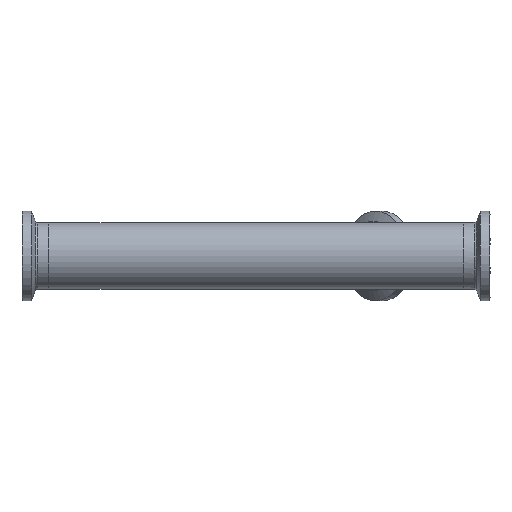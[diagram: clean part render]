
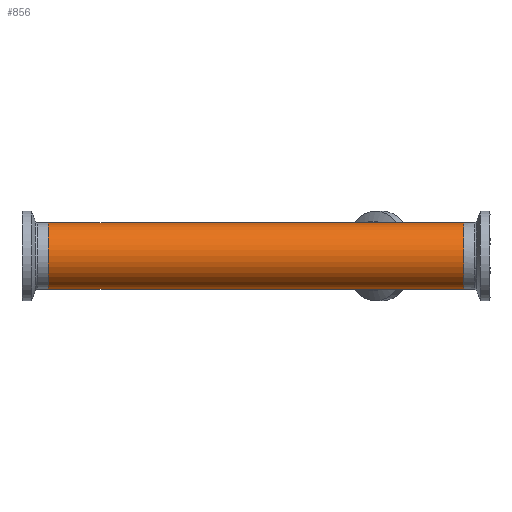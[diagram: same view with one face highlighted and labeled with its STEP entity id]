
A CAD part, front view. The second image highlights one B-rep face of the part: STEP entity #856.
In plain terms, the highlighted cylindrical face has radius 12.7 mm (diameter 25.4 mm), a partial arc.
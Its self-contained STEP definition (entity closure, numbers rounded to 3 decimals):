
#2 = EDGE_CURVE ( 'NONE', #107, #1171, #1475, .T. ) ;
#3 = ORIENTED_EDGE ( 'NONE', *, *, #2576, .F. ) ;
#44 = DIRECTION ( 'NONE',  ( -1., 0., 0. ) ) ;
#102 = FACE_OUTER_BOUND ( 'NONE', #1745, .T. ) ;
#107 = VERTEX_POINT ( 'NONE', #2544 ) ;
#226 = CARTESIAN_POINT ( 'NONE',  ( -28.1, 0., 12.7 ) ) ;
#250 = DIRECTION ( 'NONE',  ( 1., 0., 0. ) ) ;
#319 = VERTEX_POINT ( 'NONE', #2007 ) ;
#400 = LINE ( 'NONE', #226, #2636 ) ;
#428 = DIRECTION ( 'NONE',  ( 1., 0., 0. ) ) ;
#465 = EDGE_CURVE ( 'NONE', #1651, #1171, #400, .T. ) ;
#485 = CARTESIAN_POINT ( 'NONE',  ( -28.1, 0., -12.7 ) ) ;
#643 = DIRECTION ( 'NONE',  ( 0., 0., -1. ) ) ;
#815 = ORIENTED_EDGE ( 'NONE', *, *, #1631, .T. ) ;
#851 = AXIS2_PLACEMENT_3D ( 'NONE', #1619, #44, #1554 ) ;
#856 = ADVANCED_FACE ( 'NONE', ( #102 ), #1694, .T. ) ;
#880 = DIRECTION ( 'NONE',  ( 1., 0., 0. ) ) ;
#905 = CIRCLE ( 'NONE', #2298, 12.7 ) ;
#911 = EDGE_CURVE ( 'NONE', #1759, #107, #2279, .T. ) ;
#927 = CARTESIAN_POINT ( 'NONE',  ( 0., 0., 12.7 ) ) ;
#1171 = VERTEX_POINT ( 'NONE', #1343 ) ;
#1328 = VECTOR ( 'NONE', #2324, 1000. ) ;
#1343 = CARTESIAN_POINT ( 'NONE',  ( 129.7, 0., 12.7 ) ) ;
#1475 = CIRCLE ( 'NONE', #851, 12.7 ) ;
#1486 = VECTOR ( 'NONE', #2014, 1000. ) ;
#1538 = CARTESIAN_POINT ( 'NONE',  ( -28.1, 0., 0. ) ) ;
#1554 = DIRECTION ( 'NONE',  ( 0., 0., -1. ) ) ;
#1618 = CARTESIAN_POINT ( 'NONE',  ( -28.1, 0., -12.7 ) ) ;
#1619 = CARTESIAN_POINT ( 'NONE',  ( 129.7, 0., 0. ) ) ;
#1631 = EDGE_CURVE ( 'NONE', #319, #1759, #2082, .T. ) ;
#1651 = VERTEX_POINT ( 'NONE', #927 ) ;
#1666 = CARTESIAN_POINT ( 'NONE',  ( -28.1, 0., 12.7 ) ) ;
#1673 = VERTEX_POINT ( 'NONE', #2236 ) ;
#1694 = CYLINDRICAL_SURFACE ( 'NONE', #2526, 12.7 ) ;
#1701 = ORIENTED_EDGE ( 'NONE', *, *, #465, .F. ) ;
#1745 = EDGE_LOOP ( 'NONE', ( #3, #1859, #815, #1939, #2764, #1701 ) ) ;
#1759 = VERTEX_POINT ( 'NONE', #2053 ) ;
#1763 = DIRECTION ( 'NONE',  ( 0., 0., -1. ) ) ;
#1766 = LINE ( 'NONE', #1666, #1328 ) ;
#1859 = ORIENTED_EDGE ( 'NONE', *, *, #2217, .T. ) ;
#1939 = ORIENTED_EDGE ( 'NONE', *, *, #911, .T. ) ;
#2007 = CARTESIAN_POINT ( 'NONE',  ( -28.1, 0., -12.7 ) ) ;
#2014 = DIRECTION ( 'NONE',  ( 1., 0., 0. ) ) ;
#2053 = CARTESIAN_POINT ( 'NONE',  ( 0., 0., -12.7 ) ) ;
#2082 = LINE ( 'NONE', #485, #1486 ) ;
#2166 = CARTESIAN_POINT ( 'NONE',  ( -28.1, 0., 0. ) ) ;
#2217 = EDGE_CURVE ( 'NONE', #1673, #319, #905, .T. ) ;
#2236 = CARTESIAN_POINT ( 'NONE',  ( -28.1, 0., 12.7 ) ) ;
#2279 = LINE ( 'NONE', #1618, #2582 ) ;
#2298 = AXIS2_PLACEMENT_3D ( 'NONE', #1538, #250, #1763 ) ;
#2324 = DIRECTION ( 'NONE',  ( 1., 0., 0. ) ) ;
#2501 = DIRECTION ( 'NONE',  ( 1., 0., 0. ) ) ;
#2526 = AXIS2_PLACEMENT_3D ( 'NONE', #2166, #428, #643 ) ;
#2544 = CARTESIAN_POINT ( 'NONE',  ( 129.7, 0., -12.7 ) ) ;
#2576 = EDGE_CURVE ( 'NONE', #1673, #1651, #1766, .T. ) ;
#2582 = VECTOR ( 'NONE', #2501, 1000. ) ;
#2636 = VECTOR ( 'NONE', #880, 1000. ) ;
#2764 = ORIENTED_EDGE ( 'NONE', *, *, #2, .T. ) ;
